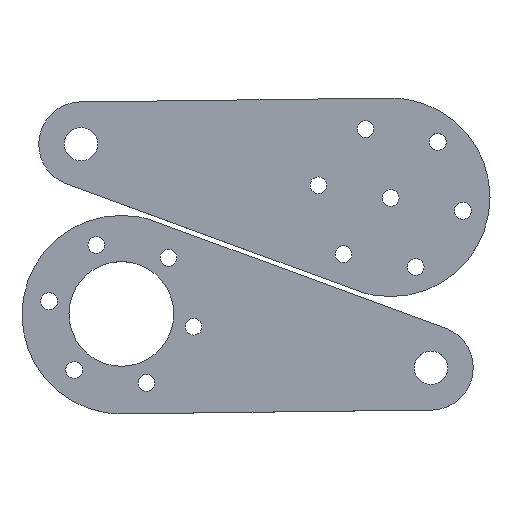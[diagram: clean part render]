
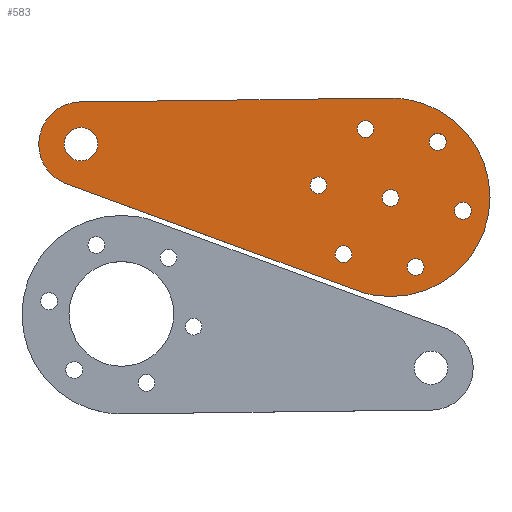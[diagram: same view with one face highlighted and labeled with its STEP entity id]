
A CAD part, top view. The second image highlights one B-rep face of the part: STEP entity #583.
In plain terms, the highlighted planar face has unit normal (0, 0, 1).
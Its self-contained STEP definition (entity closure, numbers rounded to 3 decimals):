
#32=CARTESIAN_POINT('',(336.645,-10.056,0.));
#33=VERTEX_POINT('',#32);
#34=CARTESIAN_POINT('',(333.105,-29.405,0.));
#35=VERTEX_POINT('',#34);
#36=CARTESIAN_POINT('',(337.009,-20.121,0.));
#37=DIRECTION('',(0.,0.,1.));
#38=DIRECTION('',(1.,0.,-0.));
#39=AXIS2_PLACEMENT_3D('',#36,#37,#38);
#40=CIRCLE('',#39,10.071);
#41=EDGE_CURVE('',#33,#35,#40,.T.);
#74=CARTESIAN_POINT('',(403.62,-55.326,0.));
#75=VERTEX_POINT('',#74);
#76=CARTESIAN_POINT('',(333.105,-29.405,0.));
#77=DIRECTION('',(0.939,-0.345,0.));
#78=VECTOR('',#77,75.129);
#79=LINE('',#76,#78);
#80=EDGE_CURVE('',#35,#75,#79,.T.);
#105=CARTESIAN_POINT('',(406.805,-56.12,0.));
#106=VERTEX_POINT('',#105);
#107=CARTESIAN_POINT('',(408.741,-41.574,0.));
#108=DIRECTION('',(0.,0.,1.));
#109=DIRECTION('',(1.,0.,-0.));
#110=AXIS2_PLACEMENT_3D('',#107,#108,#109);
#111=CIRCLE('',#110,14.674);
#112=EDGE_CURVE('',#75,#106,#111,.T.);
#138=CARTESIAN_POINT('',(434.605,-32.805,0.));
#139=VERTEX_POINT('',#138);
#157=CARTESIAN_POINT('',(415.028,-9.486,0.));
#158=VERTEX_POINT('',#157);
#165=CARTESIAN_POINT('',(410.928,-32.805,0.));
#166=DIRECTION('',(0.,0.,1.));
#167=DIRECTION('',(1.,0.,-0.));
#168=AXIS2_PLACEMENT_3D('',#165,#166,#167);
#169=CIRCLE('',#168,23.677);
#170=EDGE_CURVE('',#139,#158,#169,.T.);
#180=CARTESIAN_POINT('',(410.84,-9.129,0.));
#181=VERTEX_POINT('',#180);
#182=CARTESIAN_POINT('',(410.919,-32.917,0.));
#183=DIRECTION('',(0.,0.,1.));
#184=DIRECTION('',(1.,0.,-0.));
#185=AXIS2_PLACEMENT_3D('',#182,#183,#184);
#186=CIRCLE('',#185,23.789);
#187=EDGE_CURVE('',#158,#181,#186,.T.);
#213=CARTESIAN_POINT('',(406.913,-16.535,0.));
#214=VERTEX_POINT('',#213);
#223=CARTESIAN_POINT('',(404.913,-16.535,0.));
#224=DIRECTION('',(0.,0.,1.));
#225=DIRECTION('',(1.,0.,-0.));
#226=AXIS2_PLACEMENT_3D('',#223,#224,#225);
#227=CIRCLE('',#226,2.);
#228=EDGE_CURVE('',#214,#214,#227,.T.);
#246=CARTESIAN_POINT('',(418.884,-49.424,0.));
#247=VERTEX_POINT('',#246);
#256=CARTESIAN_POINT('',(416.884,-49.424,0.));
#257=DIRECTION('',(0.,0.,1.));
#258=DIRECTION('',(1.,0.,-0.));
#259=AXIS2_PLACEMENT_3D('',#256,#257,#258);
#260=CIRCLE('',#259,2.);
#261=EDGE_CURVE('',#247,#247,#260,.T.);
#279=CARTESIAN_POINT('',(424.147,-19.573,0.));
#280=VERTEX_POINT('',#279);
#289=CARTESIAN_POINT('',(422.147,-19.573,0.));
#290=DIRECTION('',(0.,0.,1.));
#291=DIRECTION('',(1.,0.,-0.));
#292=AXIS2_PLACEMENT_3D('',#289,#290,#291);
#293=CIRCLE('',#292,2.);
#294=EDGE_CURVE('',#280,#280,#293,.T.);
#312=CARTESIAN_POINT('',(430.132,-36.018,0.));
#313=VERTEX_POINT('',#312);
#322=CARTESIAN_POINT('',(428.132,-36.018,0.));
#323=DIRECTION('',(0.,0.,1.));
#324=DIRECTION('',(1.,0.,-0.));
#325=AXIS2_PLACEMENT_3D('',#322,#323,#324);
#326=CIRCLE('',#325,2.);
#327=EDGE_CURVE('',#313,#313,#326,.T.);
#345=CARTESIAN_POINT('',(395.664,-29.94,0.));
#346=VERTEX_POINT('',#345);
#355=CARTESIAN_POINT('',(393.664,-29.94,0.));
#356=DIRECTION('',(0.,0.,1.));
#357=DIRECTION('',(1.,0.,-0.));
#358=AXIS2_PLACEMENT_3D('',#355,#356,#357);
#359=CIRCLE('',#358,2.);
#360=EDGE_CURVE('',#346,#346,#359,.T.);
#378=CARTESIAN_POINT('',(401.649,-46.385,0.));
#379=VERTEX_POINT('',#378);
#388=CARTESIAN_POINT('',(399.649,-46.385,0.));
#389=DIRECTION('',(0.,0.,1.));
#390=DIRECTION('',(1.,0.,-0.));
#391=AXIS2_PLACEMENT_3D('',#388,#389,#390);
#392=CIRCLE('',#391,2.);
#393=EDGE_CURVE('',#379,#379,#392,.T.);
#411=CARTESIAN_POINT('',(410.84,-9.129,0.));
#412=DIRECTION('',(-1.,-0.012,0.));
#413=VECTOR('',#412,74.202);
#414=LINE('',#411,#413);
#415=EDGE_CURVE('',#181,#33,#414,.T.);
#433=CARTESIAN_POINT('',(341.009,-20.121,0.));
#434=VERTEX_POINT('',#433);
#443=CARTESIAN_POINT('',(337.009,-20.121,0.));
#444=DIRECTION('',(0.,0.,1.));
#445=DIRECTION('',(1.,0.,-0.));
#446=AXIS2_PLACEMENT_3D('',#443,#444,#445);
#447=CIRCLE('',#446,4.);
#448=EDGE_CURVE('',#434,#434,#447,.T.);
#466=CARTESIAN_POINT('',(412.898,-32.979,0.));
#467=VERTEX_POINT('',#466);
#476=CARTESIAN_POINT('',(410.898,-32.979,0.));
#477=DIRECTION('',(0.,0.,1.));
#478=DIRECTION('',(1.,0.,-0.));
#479=AXIS2_PLACEMENT_3D('',#476,#477,#478);
#480=CIRCLE('',#479,2.);
#481=EDGE_CURVE('',#467,#467,#480,.T.);
#539=CARTESIAN_POINT('',(0.,0.,0.));
#540=DIRECTION('',(0.,0.,1.));
#541=DIRECTION('',(1.,0.,0.));
#542=AXIS2_PLACEMENT_3D('',#539,#540,#541);
#543=PLANE('',#542);
#544=ORIENTED_EDGE('',*,*,#448,.F.);
#545=EDGE_LOOP('',(#544));
#546=FACE_BOUND('',#545,.T.);
#547=ORIENTED_EDGE('',*,*,#41,.T.);
#548=ORIENTED_EDGE('',*,*,#80,.T.);
#549=ORIENTED_EDGE('',*,*,#112,.T.);
#550=CARTESIAN_POINT('',(410.928,-32.805,0.));
#551=DIRECTION('',(0.,0.,1.));
#552=DIRECTION('',(1.,0.,-0.));
#553=AXIS2_PLACEMENT_3D('',#550,#551,#552);
#554=CIRCLE('',#553,23.677);
#555=EDGE_CURVE('',#106,#139,#554,.T.);
#556=ORIENTED_EDGE('',*,*,#555,.T.);
#557=ORIENTED_EDGE('',*,*,#170,.T.);
#558=ORIENTED_EDGE('',*,*,#187,.T.);
#559=ORIENTED_EDGE('',*,*,#415,.T.);
#560=EDGE_LOOP('',(#547,#548,#549,#556,#557,#558,#559));
#561=FACE_BOUND('',#560,.T.);
#562=ORIENTED_EDGE('',*,*,#393,.F.);
#563=EDGE_LOOP('',(#562));
#564=FACE_BOUND('',#563,.T.);
#565=ORIENTED_EDGE('',*,*,#360,.F.);
#566=EDGE_LOOP('',(#565));
#567=FACE_BOUND('',#566,.T.);
#568=ORIENTED_EDGE('',*,*,#327,.F.);
#569=EDGE_LOOP('',(#568));
#570=FACE_BOUND('',#569,.T.);
#571=ORIENTED_EDGE('',*,*,#294,.F.);
#572=EDGE_LOOP('',(#571));
#573=FACE_BOUND('',#572,.T.);
#574=ORIENTED_EDGE('',*,*,#261,.F.);
#575=EDGE_LOOP('',(#574));
#576=FACE_BOUND('',#575,.T.);
#577=ORIENTED_EDGE('',*,*,#228,.F.);
#578=EDGE_LOOP('',(#577));
#579=FACE_BOUND('',#578,.T.);
#580=ORIENTED_EDGE('',*,*,#481,.F.);
#581=EDGE_LOOP('',(#580));
#582=FACE_BOUND('',#581,.T.);
#583=ADVANCED_FACE('',(#546,#561,#564,#567,#570,#573,#576,#579,#582),#543,.T.);
